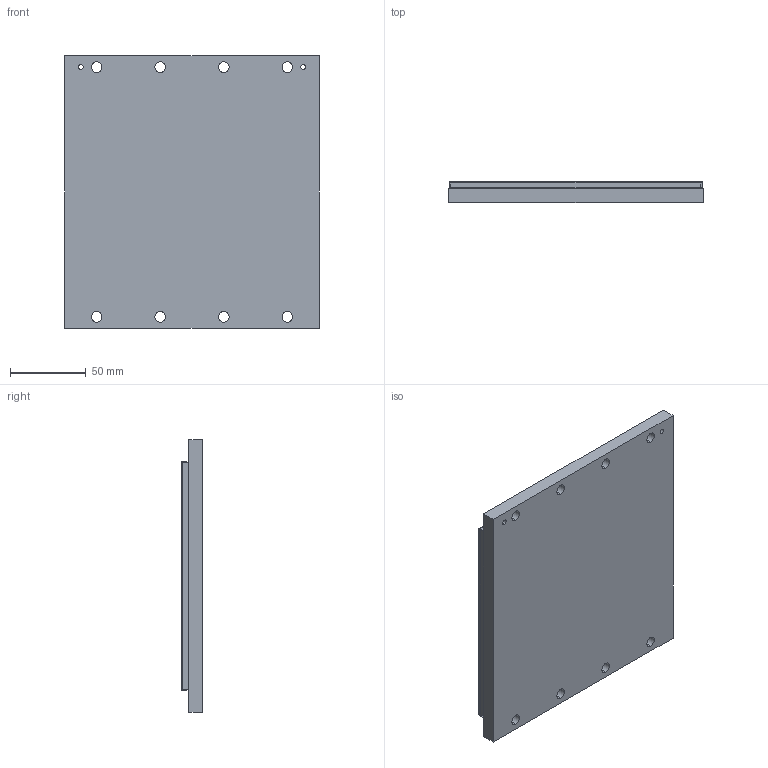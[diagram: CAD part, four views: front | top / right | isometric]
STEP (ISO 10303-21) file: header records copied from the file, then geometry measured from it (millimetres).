
FILE_DESCRIPTION (( 'STEP AP214' ), '1' );
FILE_NAME ('PIXM350-180-TL168-C.step', '2021-11-01T10:02:56', ( '' ), ( '' ), 'SwSTEP 2.0', 'SolidWorks 2020', '' );
FILE_SCHEMA (( 'AUTOMOTIVE_DESIGN' ));
Length unit declared in the file: millimetre
Products named in the file (1): PIXM350-180-TL168-C
Bounding box: 168 x 13.8 x 180 mm (x, y, z)
Volume: 387211.1 mm3; surface area: 173758.3 mm2
Topology: 3 solids, 3 shells, 89 faces, 206 edges, 132 vertices
Faces by surface type: plane 49, cylinder 40
Entity records: 3603 total; most frequent: DIRECTION 466, CARTESIAN_POINT 428, ORIENTED_EDGE 412, EDGE_CURVE 206, AXIS2_PLACEMENT_3D 170, VERTEX_POINT 132, VECTOR 126, LINE 126
